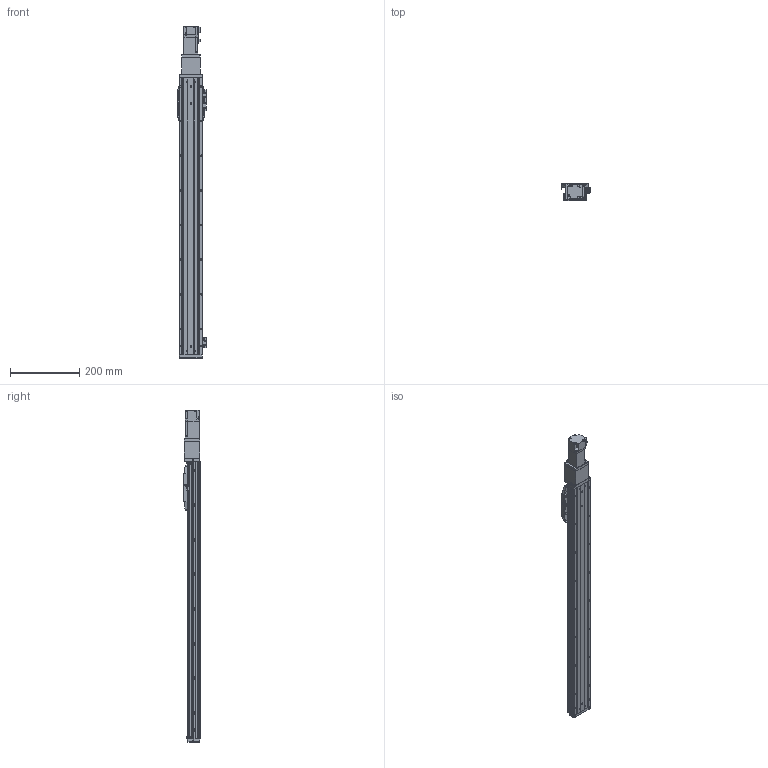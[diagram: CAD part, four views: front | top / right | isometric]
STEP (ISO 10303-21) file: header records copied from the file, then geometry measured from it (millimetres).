
FILE_DESCRIPTION (( 'STEP AP214' ), '1' );
FILE_NAME ('CTHA60-650-BC-M10-C4L.step', '2022-03-19T06:11:03', ( '微软用户' ), ( '微软中国' ), 'SwSTEP 2.0', 'SolidWorks 2020', '' );
FILE_SCHEMA (( 'AUTOMOTIVE_DESIGN' ));
Length unit declared in the file: millimetre
Products named in the file (19): CTHA60-005; CTHA60-002; CTHA60-017; GBT77-2000 M3×3; CTHA60-016; CTHA60-001_800; CTHA60-006; GB¨uT 70.2-M3¡Á6_M3¡Á6; CTHA60-031; CTHA60-021; GBT 70.1-M3℅6; CTHA60-027; CTHA60-004; HG-KR13（三菱）; EE_SX911P_R; CTHA60-650-BC-M10-C4L; GBT 70.1-M4×16; GBT 70.3-M3℅6; CTHA60-013
Assembly tree (57 placements, depth 2):
  CTHA60-650-BC-M10-C4L
    CTHA60-001_800
    CTHA60-004
    CTHA60-005
    GB¨uT 70.2-M3¡Á6_M3¡Á6  x10
    EE_SX911P_R  x3
    CTHA60-017  x3
    CTHA60-021  x2
    GBT 70.1-M4×16  x10
    GBT77-2000 M3×3  x6
    GBT 70.1-M3℅6  x6
    GBT 70.3-M3℅6  x6
    CTHA60-016  x2
    CTHA60-027
    CTHA60-013
    CTHA60-006
    HG-KR13（三菱）
    CTHA60-002
    CTHA60-031
Bounding box: 83.12 x 48 x 958.6 mm (x, y, z)
Volume: 1530396 mm3; surface area: 425950.3 mm2
Topology: 59 solids, 59 shells, 2495 faces, 5965 edges, 3659 vertices
Faces by surface type: plane 1450, cylinder 561, cone 364, torus 96, sphere 24
Entity records: 40402 total; most frequent: CARTESIAN_POINT 6816, DIRECTION 6712, ORIENTED_EDGE 6510, EDGE_CURVE 3255, LINE 2400, VECTOR 2400, AXIS2_PLACEMENT_3D 2156, VERTEX_POINT 2056
